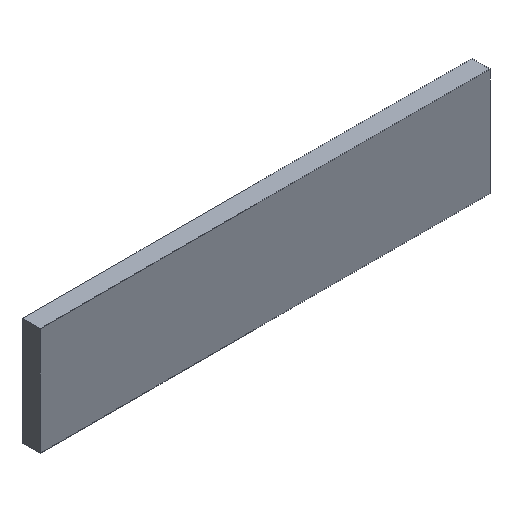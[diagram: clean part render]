
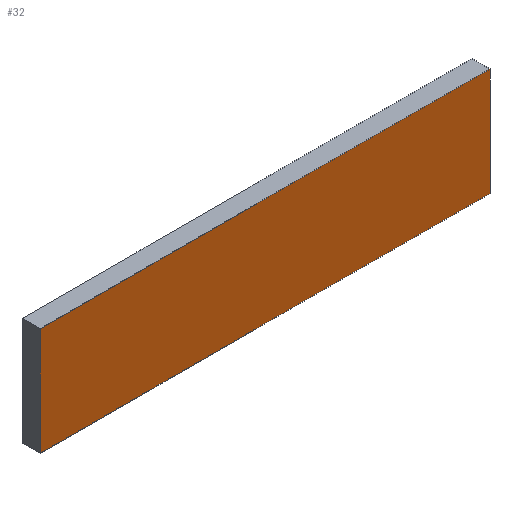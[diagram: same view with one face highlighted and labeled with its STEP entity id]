
A CAD part, isometric view. The second image highlights one B-rep face of the part: STEP entity #32.
In plain terms, the highlighted planar face has unit normal (0, -1, 0).
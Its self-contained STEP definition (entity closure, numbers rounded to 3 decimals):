
#32=ADVANCED_FACE('',(#62),#63,.F.);
#62=FACE_OUTER_BOUND('',#87,.T.);
#63=PLANE('',#88);
#87=EDGE_LOOP('',(#111,#112,#113,#114));
#88=AXIS2_PLACEMENT_3D('',#115,#116,#117);
#111=ORIENTED_EDGE('',*,*,#156,.F.);
#112=ORIENTED_EDGE('',*,*,#151,.F.);
#113=ORIENTED_EDGE('',*,*,#157,.F.);
#114=ORIENTED_EDGE('',*,*,#158,.F.);
#115=CARTESIAN_POINT('',(50.0,5.2,2.0));
#116=DIRECTION('',(0.0,1.0,0.0));
#117=DIRECTION('',(0.0,0.0,-1.0));
#151=EDGE_CURVE('',#169,#170,#171,.T.);
#156=EDGE_CURVE('',#170,#178,#179,.T.);
#157=EDGE_CURVE('',#180,#169,#181,.T.);
#158=EDGE_CURVE('',#178,#180,#182,.T.);
#169=VERTEX_POINT('',#195);
#170=VERTEX_POINT('',#196);
#171=LINE('',#197,#198);
#178=VERTEX_POINT('',#208);
#179=LINE('',#209,#210);
#180=VERTEX_POINT('',#211);
#181=LINE('',#212,#213);
#182=LINE('',#214,#215);
#195=CARTESIAN_POINT('',(0.0,5.2,-10.0));
#196=CARTESIAN_POINT('',(0.0,5.2,2.0));
#197=CARTESIAN_POINT('',(0.0,5.2,-10.0));
#198=VECTOR('',#232,1.0);
#208=CARTESIAN_POINT('',(50.0,5.2,2.0));
#209=CARTESIAN_POINT('',(0.0,5.2,2.0));
#210=VECTOR('',#236,1.0);
#211=CARTESIAN_POINT('',(50.0,5.2,-10.0));
#212=CARTESIAN_POINT('',(50.0,5.2,-10.0));
#213=VECTOR('',#237,1.0);
#214=CARTESIAN_POINT('',(50.0,5.2,2.0));
#215=VECTOR('',#238,1.0);
#232=DIRECTION('',(0.0,0.0,1.0));
#236=DIRECTION('',(1.0,0.0,0.0));
#237=DIRECTION('',(-1.0,0.0,0.0));
#238=DIRECTION('',(0.0,0.0,-1.0));
